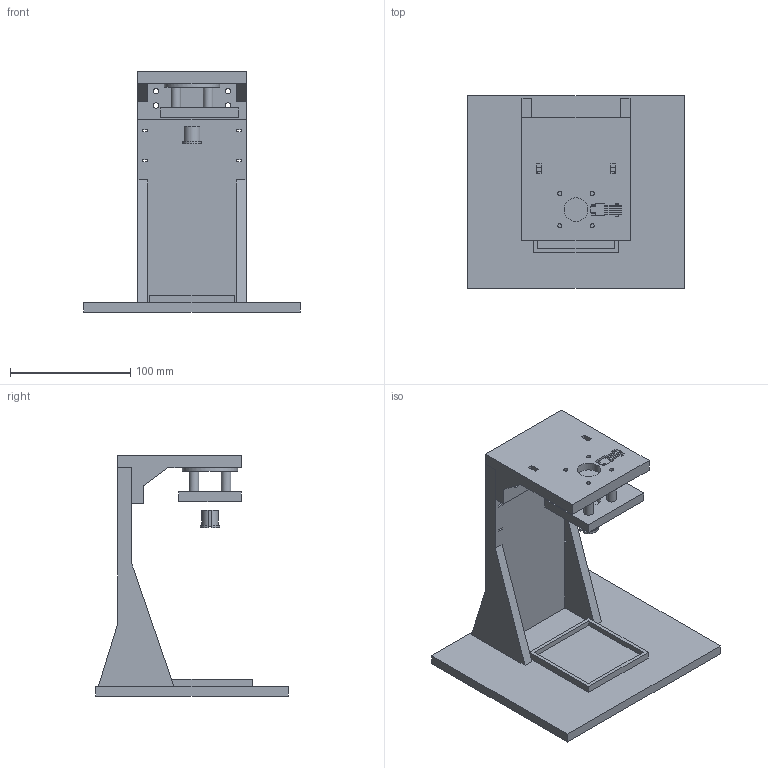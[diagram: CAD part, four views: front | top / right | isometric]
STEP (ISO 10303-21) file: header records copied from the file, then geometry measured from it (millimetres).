
FILE_DESCRIPTION(('Open CASCADE Model'),'2;1');
FILE_NAME('Open CASCADE Shape Model','2026-11-11T17:26:39',('Author'),( 'Open CASCADE'),'Open CASCADE STEP processor 7.9','Open CASCADE 7.9' ,'Unknown');
FILE_SCHEMA(('AUTOMOTIVE_DESIGN { 1 0 10303 214 1 1 1 1 }'));
Length unit declared in the file: millimetre
Products named in the file (5): four_printed_bodies_three_jobs; 01_frame_base_upright_tray; 02_cantilever_vented_head_upper_sensor; 03_four_DC1_stack_cassette_lower_LPG_seat; 04_D68_payload_carrier
Assembly tree (4 placements, depth 2):
  four_printed_bodies_three_jobs
    01_frame_base_upright_tray
    02_cantilever_vented_head_upper_sensor
    03_four_DC1_stack_cassette_lower_LPG_seat
    04_D68_payload_carrier
Bounding box: 180 x 160 x 200 mm (x, y, z)
Volume: 620607.2 mm3; surface area: 158082.6 mm2
Topology: 4 solids, 4 shells, 218 faces, 616 edges, 408 vertices
Faces by surface type: plane 188, cylinder 30
Full cylindrical faces by diameter (mm): 3.4 x8, 4.5 x8, 8 x4, 10 x1, 19.6 x2, 46 x1
Entity records: 14826 total; most frequent: CARTESIAN_POINT 2957, DIRECTION 1928, LINE 1286, VECTOR 1286, ORIENTED_EDGE 1232, PCURVE 1232, DEFINITIONAL_REPRESENTATION 1232, EDGE_CURVE 616
